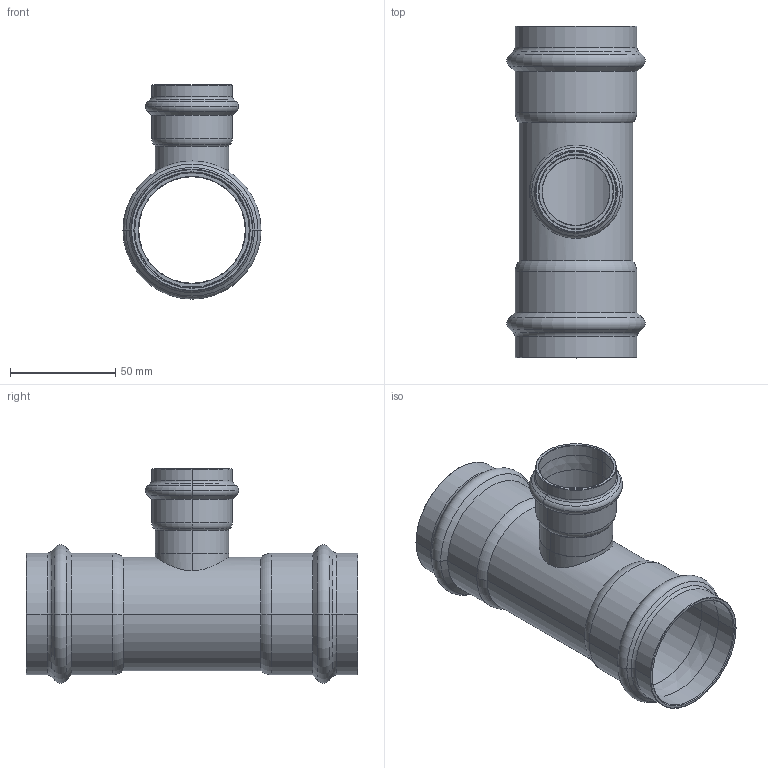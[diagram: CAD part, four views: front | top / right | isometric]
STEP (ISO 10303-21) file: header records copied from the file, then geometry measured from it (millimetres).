
FILE_DESCRIPTION(('CoCreate Modeling STEP Export'),'2;1');
FILE_NAME('8130RVW543554.stp','2013-01-31T14:47:06',(''),(''),'CoCreate Modeling STEP processor for AP214 (Solid Model)','CoCreate Modeling 17.00A 17-Jun-2010 (C) Parametric Technology GmbH','');
FILE_SCHEMA(('AUTOMOTIVE_DESIGN { 1 0 10303 214 1 1 1 1 }'));
Length unit declared in the file: millimetre
Products named in the file (1): 8130RVW543554
Bounding box: 65.68 x 157.73 x 101.83 mm (x, y, z)
Volume: 64797.6 mm3; surface area: 66628 mm2
Topology: 1 solids, 1 shells, 130 faces, 271 edges, 151 vertices
Faces by surface type: cylinder 42, torus 38, cone 38, plane 10, bspline 2
Entity records: 5438 total; most frequent: CARTESIAN_POINT 3089, ORIENTED_EDGE 542, DIRECTION 430, EDGE_CURVE 271, AXIS2_PLACEMENT_3D 175, VERTEX_POINT 151, EDGE_LOOP 142, FACE_OUTER_BOUND 130
